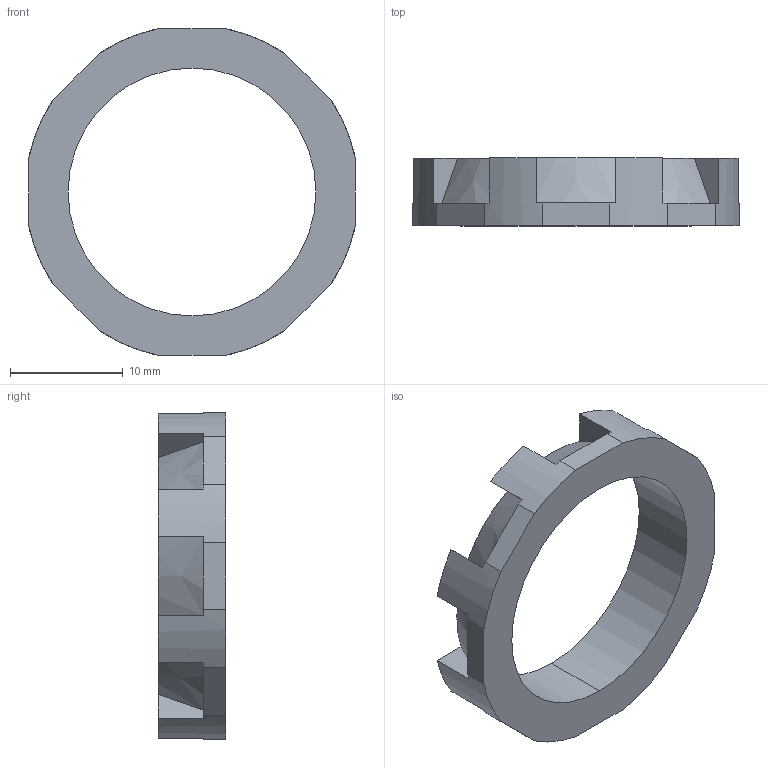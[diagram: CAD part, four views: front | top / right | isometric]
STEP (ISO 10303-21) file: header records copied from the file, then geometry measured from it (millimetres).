
FILE_DESCRIPTION (( 'STEP AP214' ), '1' );
FILE_NAME ('ZF_STEP_VE_GFx2xA.STEP', '2014-06-24T07:48:15', ( 'utente' ), ( 'Microsoft' ), 'SwSTEP 2.0', 'SolidWorks 2013', '' );
FILE_SCHEMA (( 'AUTOMOTIVE_DESIGN' ));
Length unit declared in the file: millimetre
Products named in the file (1): ZF_STEP_VE_GFx2xA
Bounding box: 29 x 6 x 29 mm (x, y, z)
Volume: 1387.3 mm3; surface area: 1615.3 mm2
Topology: 1 solids, 1 shells, 53 faces, 153 edges, 102 vertices
Faces by surface type: plane 34, cylinder 10, cone 9
Entity records: 2046 total; most frequent: CARTESIAN_POINT 357, ORIENTED_EDGE 306, DIRECTION 299, EDGE_CURVE 153, AXIS2_PLACEMENT_3D 108, VERTEX_POINT 102, VECTOR 83, LINE 83
